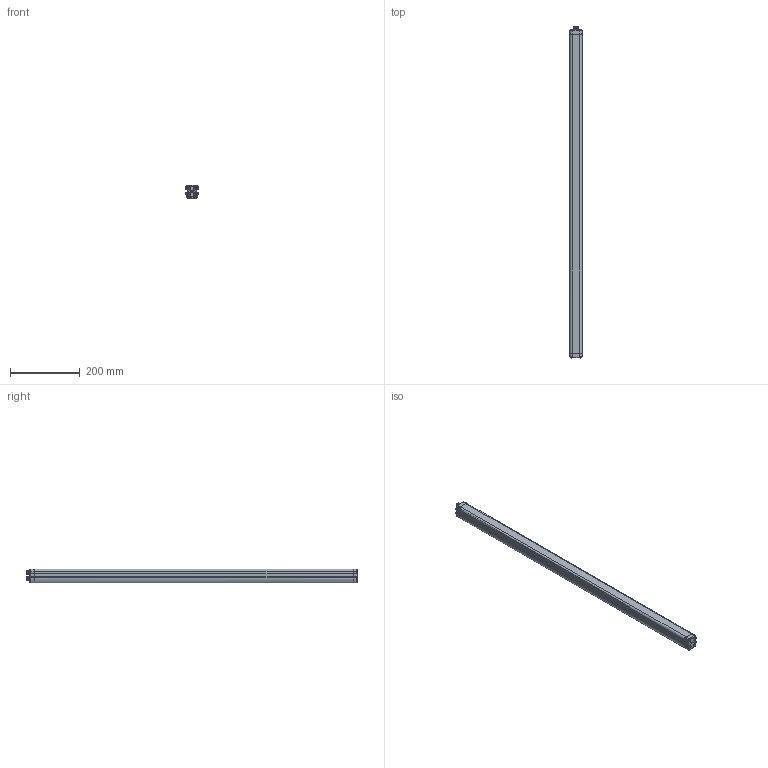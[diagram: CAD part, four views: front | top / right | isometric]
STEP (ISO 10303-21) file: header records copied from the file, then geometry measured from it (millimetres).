
FILE_DESCRIPTION((''),'2;1');
FILE_NAME('2009978','2012-01-30T',('rink'),(''),'PRO/ENGINEER BY PARAMETRIC TECHNOLOGY CORPORATION, 2011040','PRO/ENGINEER BY PARAMETRIC TECHNOLOGY CORPORATION, 2011040','');
FILE_SCHEMA(('AUTOMOTIVE_DESIGN_CC2 { 1 2 10303 214 -1 1 5 2 }'));
Products named in the file (1): 2009978
Bounding box: 35 x 952.58 x 40 mm (x, y, z)
Volume: 1160733.8 mm3; surface area: 198975.1 mm2
Topology: 1 solids, 1 shells, 2508 faces, 6702 edges, 4054 vertices
Faces by surface type: cylinder 686, extrusion 526, plane 484, bspline 356, torus 258, sphere 166, cone 32
Entity records: 186760 total; most frequent: CARTESIAN_POINT 111627, ORIENTED_EDGE 13056, DIRECTION 9009, PRESENTATION_STYLE_ASSIGNMENT 6535, STYLED_ITEM 6530, CURVE_STYLE 6529, EDGE_CURVE 6528, VERTEX_POINT 4054
